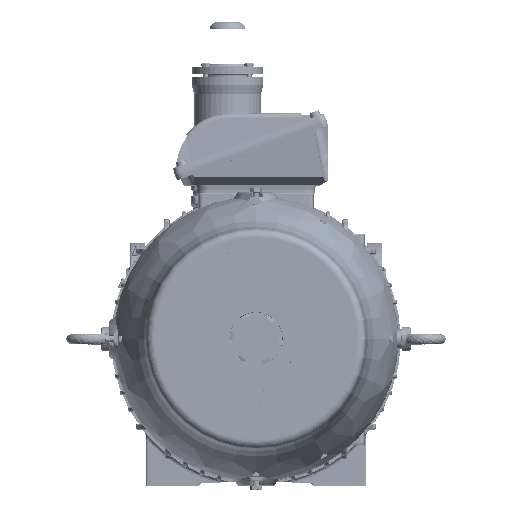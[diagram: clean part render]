
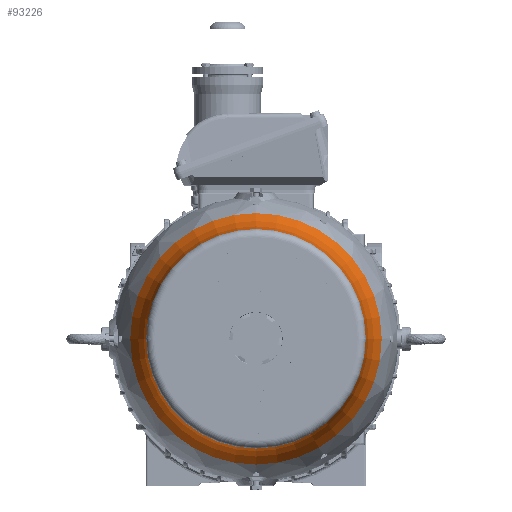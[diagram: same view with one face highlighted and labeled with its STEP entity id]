
A CAD part, top view. The second image highlights one B-rep face of the part: STEP entity #93226.
In plain terms, the highlighted toroidal (fillet/blend) face has major radius 264.661 mm and minor radius 130 mm.
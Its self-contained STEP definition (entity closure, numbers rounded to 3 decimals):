
#106=TOROIDAL_SURFACE('',#99444,264.661,130.);
#10707=FACE_OUTER_BOUND('',#16198,.T.);
#16198=EDGE_LOOP('',(#65864,#65865,#65866,#65867,#65868,#65869));
#21742=CIRCLE('',#99439,134.976);
#21743=CIRCLE('',#99440,134.976);
#21747=CIRCLE('',#99445,154.526);
#21748=CIRCLE('',#99446,154.526);
#21749=CIRCLE('',#99447,130.);
#37608=VERTEX_POINT('',#187472);
#37609=VERTEX_POINT('',#187473);
#37612=VERTEX_POINT('',#187482);
#37613=VERTEX_POINT('',#187483);
#47987=EDGE_CURVE('',#37608,#37609,#21742,.T.);
#47988=EDGE_CURVE('',#37609,#37608,#21743,.T.);
#47992=EDGE_CURVE('',#37612,#37613,#21747,.T.);
#47993=EDGE_CURVE('',#37613,#37612,#21748,.T.);
#47994=EDGE_CURVE('',#37613,#37609,#21749,.T.);
#65864=ORIENTED_EDGE('',*,*,#47992,.F.);
#65865=ORIENTED_EDGE('',*,*,#47993,.F.);
#65866=ORIENTED_EDGE('',*,*,#47994,.T.);
#65867=ORIENTED_EDGE('',*,*,#47988,.T.);
#65868=ORIENTED_EDGE('',*,*,#47987,.T.);
#65869=ORIENTED_EDGE('',*,*,#47994,.F.);
#93226=ADVANCED_FACE('',(#10707),#106,.F.);
#99439=AXIS2_PLACEMENT_3D('',#187474,#111944,#111945);
#99440=AXIS2_PLACEMENT_3D('',#187475,#111946,#111947);
#99444=AXIS2_PLACEMENT_3D('',#187481,#111954,#111955);
#99445=AXIS2_PLACEMENT_3D('',#187484,#111956,#111957);
#99446=AXIS2_PLACEMENT_3D('',#187485,#111958,#111959);
#99447=AXIS2_PLACEMENT_3D('',#187486,#111960,#111961);
#111944=DIRECTION('center_axis',(0.,0.,
-1.));
#111945=DIRECTION('ref_axis',(-1.,0.,0.));
#111946=DIRECTION('center_axis',(0.,0.,
-1.));
#111947=DIRECTION('ref_axis',(-1.,0.,0.));
#111954=DIRECTION('center_axis',(0.,0.,
-1.));
#111955=DIRECTION('ref_axis',(-1.,0.,0.));
#111956=DIRECTION('center_axis',(0.,0.,
-1.));
#111957=DIRECTION('ref_axis',(-1.,0.,0.));
#111958=DIRECTION('center_axis',(0.,0.,
-1.));
#111959=DIRECTION('ref_axis',(-1.,0.,0.));
#111960=DIRECTION('center_axis',(0.,1.,0.));
#111961=DIRECTION('ref_axis',(1.,0.,0.));
#187472=CARTESIAN_POINT('',(-134.976,0.,702.195));
#187473=CARTESIAN_POINT('',(134.976,0.,702.195));
#187474=CARTESIAN_POINT('Origin',(0.,0.,
702.195));
#187475=CARTESIAN_POINT('Origin',(0.,0.,
702.195));
#187481=CARTESIAN_POINT('Origin',(0.,0.,
711.231));
#187482=CARTESIAN_POINT('',(-154.526,0.,642.164));
#187483=CARTESIAN_POINT('',(154.526,0.,642.164));
#187484=CARTESIAN_POINT('Origin',(0.,0.,
642.164));
#187485=CARTESIAN_POINT('Origin',(0.,0.,
642.164));
#187486=CARTESIAN_POINT('Origin',(264.661,0.,
711.231));
